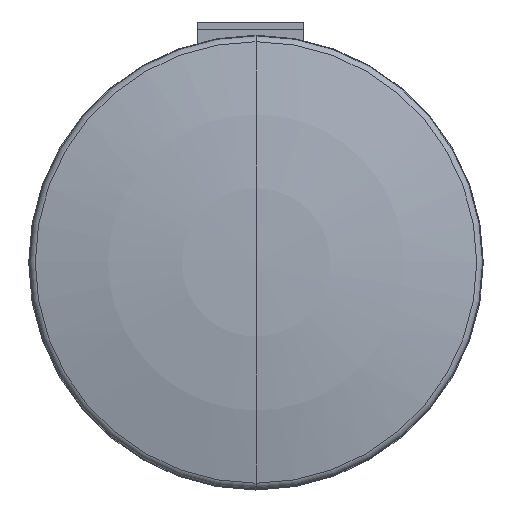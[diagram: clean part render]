
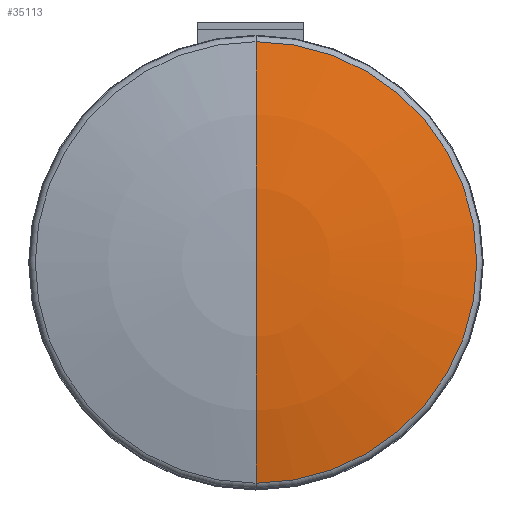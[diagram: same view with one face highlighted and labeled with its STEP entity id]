
A CAD part, top view. The second image highlights one B-rep face of the part: STEP entity #35113.
In plain terms, the highlighted toroidal (fillet/blend) face has major radius 1.403 mm and minor radius 56 mm.
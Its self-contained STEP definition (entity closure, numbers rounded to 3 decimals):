
#1799 = DIRECTION ( 'NONE',  ( 1., 0., 0. ) ) ;
#6172 = CARTESIAN_POINT ( 'NONE',  ( 0., -8.877, -51.819 ) ) ;
#6349 = DIRECTION ( 'NONE',  ( 0., 1., 0. ) ) ;
#6589 = TOROIDAL_SURFACE ( 'NONE', #35009, 1.404, 56. ) ;
#7452 = DIRECTION ( 'NONE',  ( 0., 0., -1. ) ) ;
#8929 = CARTESIAN_POINT ( 'NONE',  ( 0., -7.474, -51.819 ) ) ;
#14781 = EDGE_CURVE ( 'NONE', #30827, #15598, #46891, .T. ) ;
#15598 = VERTEX_POINT ( 'NONE', #21395 ) ;
#16213 = EDGE_LOOP ( 'NONE', ( #26818, #29903, #20892 ) ) ;
#17849 = CIRCLE ( 'NONE', #26736, 14.565 ) ;
#18136 = CARTESIAN_POINT ( 'NONE',  ( 0., -7.474, 4.164 ) ) ;
#18206 = EDGE_CURVE ( 'NONE', #15598, #42220, #17849, .T. ) ;
#19457 = DIRECTION ( 'NONE',  ( 0., 0., 1. ) ) ;
#20892 = ORIENTED_EDGE ( 'NONE', *, *, #18206, .F. ) ;
#21395 = CARTESIAN_POINT ( 'NONE',  ( 0., 7.091, 2.613 ) ) ;
#21453 = EDGE_CURVE ( 'NONE', #30827, #42220, #23010, .T. ) ;
#23010 = CIRCLE ( 'NONE', #50438, 56. ) ;
#23672 = DIRECTION ( 'NONE',  ( -1., 0., 0. ) ) ;
#24588 = DIRECTION ( 'NONE',  ( 0., 1., 0. ) ) ;
#26736 = AXIS2_PLACEMENT_3D ( 'NONE', #31531, #7452, #35764 ) ;
#26818 = ORIENTED_EDGE ( 'NONE', *, *, #14781, .F. ) ;
#29903 = ORIENTED_EDGE ( 'NONE', *, *, #21453, .T. ) ;
#30827 = VERTEX_POINT ( 'NONE', #18136 ) ;
#31531 = CARTESIAN_POINT ( 'NONE',  ( 0., -7.474, 2.613 ) ) ;
#35009 = AXIS2_PLACEMENT_3D ( 'NONE', #8929, #45177, #24588 ) ;
#35113 = ADVANCED_FACE ( 'NONE', ( #44978 ), #6589, .T. ) ;
#35764 = DIRECTION ( 'NONE',  ( 0., 1., 0. ) ) ;
#40742 = AXIS2_PLACEMENT_3D ( 'NONE', #43413, #23672, #19457 ) ;
#42220 = VERTEX_POINT ( 'NONE', #48105 ) ;
#43413 = CARTESIAN_POINT ( 'NONE',  ( 0., -6.07, -51.819 ) ) ;
#44978 = FACE_OUTER_BOUND ( 'NONE', #16213, .T. ) ;
#45177 = DIRECTION ( 'NONE',  ( 0., 0., -1. ) ) ;
#46891 = CIRCLE ( 'NONE', #40742, 56. ) ;
#48105 = CARTESIAN_POINT ( 'NONE',  ( 0., -22.039, 2.613 ) ) ;
#50438 = AXIS2_PLACEMENT_3D ( 'NONE', #6172, #1799, #6349 ) ;
